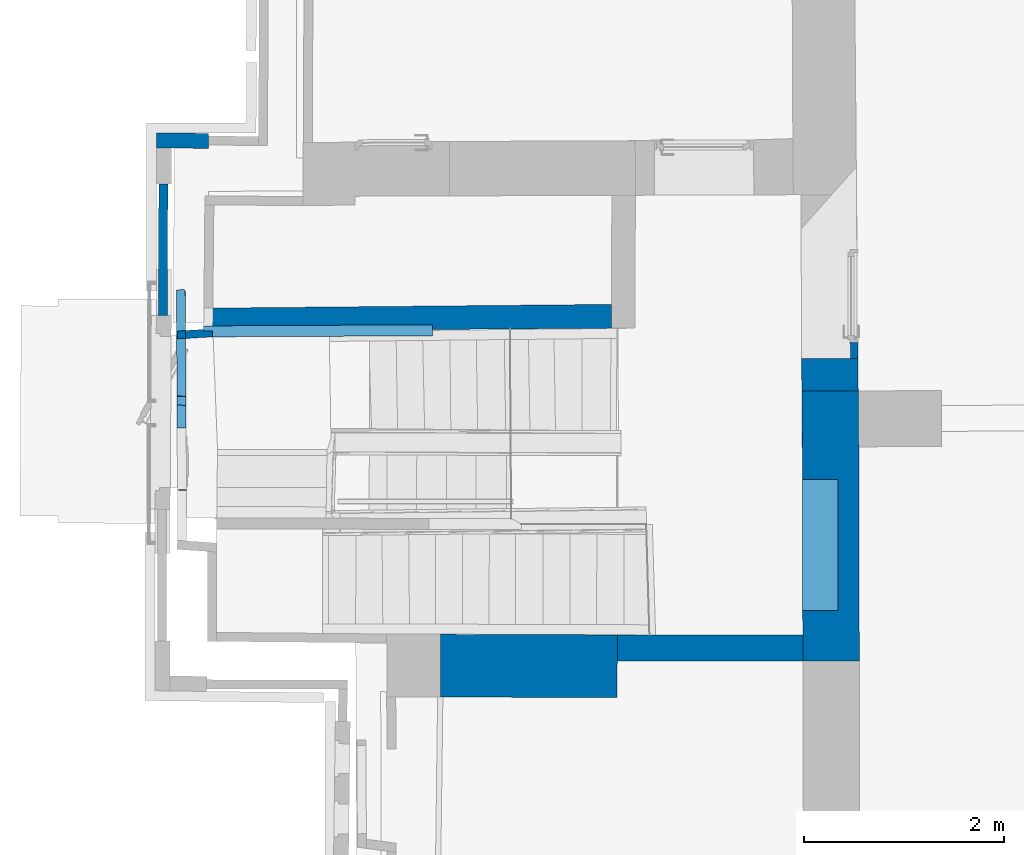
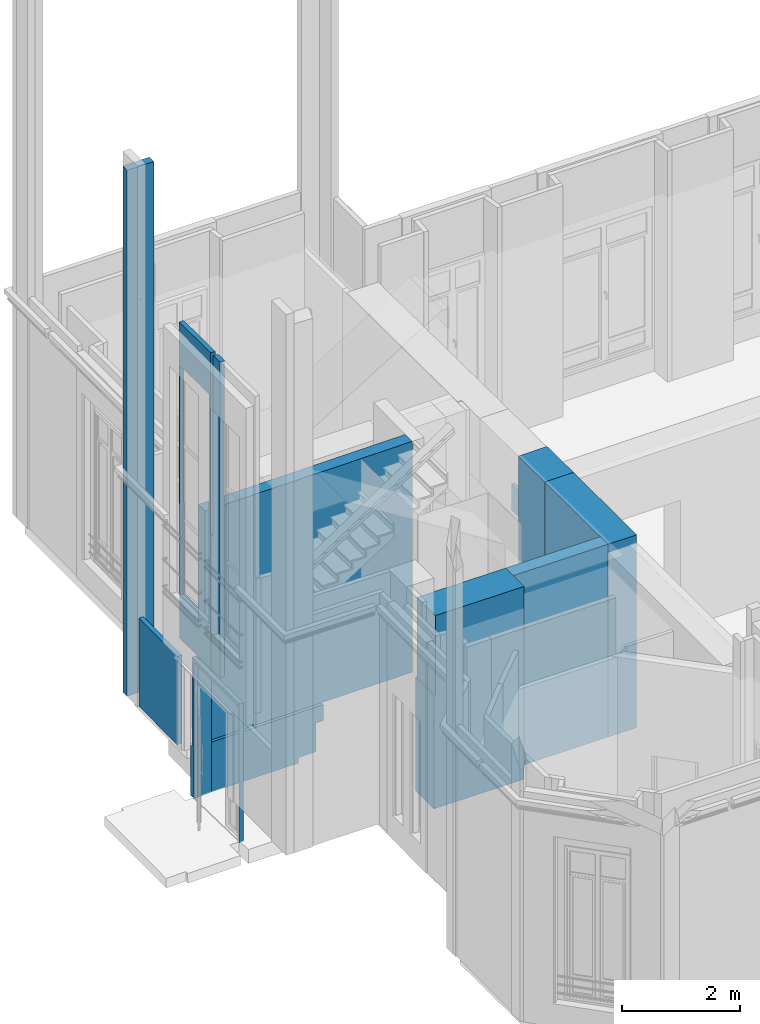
# One storey, part 10 of 97: 13 walls, 4 openings.
"""IFC2X3 building model written with IfcOpenShell, lengths in centimetres."""

from ifc_helpers import new_model, entity, si_unit, converted_unit, direction, frame, origin, origin_with_axes, origin_2d_with_axis, place, context, subcontext, project, spatial, polyline, rectangle, outline, extrude, clip, bounded_halfspace, faceted_brep, shape, material, layer, layer_set, layer_usage, type_object, element, save


model = new_model("IFC2X3")

# Units and contexts
model_context = context("Model", 3, precision=0.0001, world=origin(), true_north=direction((0.225632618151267, 0.974212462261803, 0.0)))
body_context = subcontext(model_context, "Body", "Model", "MODEL_VIEW")
footprint_context = subcontext(model_context, "FootPrint", "Model", "MODEL_VIEW")
profile_context = subcontext(model_context, "Profile", "Model", "MODEL_VIEW")
ifc_project = project(units=[si_unit("LENGTHUNIT", "METRE", prefix="CENTI"), si_unit("AREAUNIT", "SQUARE_METRE", prefix="CENTI"), si_unit("VOLUMEUNIT", "CUBIC_METRE", prefix="CENTI"), converted_unit("PLANEANGLEUNIT", "DEGREE", entity("IfcRatioMeasure", 0.0174532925), si_unit("PLANEANGLEUNIT", "RADIAN"), dimensions=[0, 0, 0, 0, 0, 0, 0])], contexts=[model_context])

# Site, building, storey
site_placement = place(None, origin_with_axes())
site = spatial("IfcSite", under=ifc_project, at=site_placement, Name="Default Site", CompositionType="ELEMENT")
building_placement = place(site_placement, origin_with_axes())
building = spatial("IfcBuilding", under=site, at=building_placement, Name="Default Building", CompositionType="ELEMENT")
storey_placement = place(building_placement, origin_with_axes())
storey = spatial("IfcBuildingStorey", under=building, at=storey_placement, Name="Rez-de-chaussée", CompositionType="ELEMENT", Elevation=0.0)

# Wall, opening
ifc_material = material(Name="<aucun>")
ifc_layer_1 = layer(ifc_material, 9.0)
ifc_layer_set_1 = layer_set([ifc_layer_1], Name="default")
ifc_layer_usage_1 = layer_usage(ifc_layer_set_1, "AXIS2", "POSITIVE", -4.5)
wall_type_1 = type_object("IfcWallType", Name="default 90", PredefinedType="NOTDEFINED", material=ifc_layer_set_1)
wall_1_placement = place(storey_placement, frame((-1335.40995484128, -49.2007279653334, 200.0), z_axis=(0.0, 0.0, 1.0), x_axis=(-0.00503871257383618, 0.999987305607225, 0.0)))
wall_1 = element("IfcWallStandardCase", 1, at=wall_1_placement, inside=storey, type_object=wall_type_1, material=ifc_layer_usage_1, Name="Enveloppe 954645", context=body_context, shape_type="Clipping", body=[
    clip(clip(clip(extrude(outline(polyline([(106.525951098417, 4.50000000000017), (2.22044604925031e-14, 4.49999999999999), (1.66533453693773e-14, -4.50000000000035), (105.301813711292, -4.49999999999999), (105.301813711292, -3.86412905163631), (107.270035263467, -3.68520594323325), (106.525951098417, 4.50000000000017)])), origin_with_axes(), (0.0, 0.0, 1.0), 653.910374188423), bounded_halfspace(frame((107.270035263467, -3.68520594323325, 277.808208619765), z_axis=(0.0, 0.0, 1.0), x_axis=(-0.995893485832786, -0.090532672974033, 0.0)), True, frame((107.270035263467, -3.68520594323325, 277.808208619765), z_axis=(0.0, 0.0, 1.0), x_axis=(1.0, 0.0, 0.0)), polyline([(-1.96822155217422, -0.178923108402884), (-1.96822155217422, 8.18520594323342), (-0.744084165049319, 8.18520594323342), (4.44089209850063e-14, 0.0), (-1.96822155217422, -0.178923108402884)]))), bounded_halfspace(frame((0.0159313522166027, -4.50000000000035, 277.808208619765), z_axis=(0.0, 0.0, -1.0), x_axis=(0.123055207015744, 0.992399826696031, 0.0)), True, frame((0.0159313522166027, -4.50000000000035, 277.808208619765), z_axis=(0.0, 0.0, 1.0), x_axis=(1.0, 0.0, 0.0)), polyline([(-0.0159313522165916, 0.0), (0.0, 0.0), (1.1159784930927, 8.99999999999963), (-0.0159313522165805, 9.00000000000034), (-0.0159313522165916, 0.0)]))), bounded_halfspace(frame((98.3069938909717, -4.49999999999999, 277.808208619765), z_axis=(0.0, 0.0, -1.0), x_axis=(1.0, 1.06876313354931e-14, 0.0)), True, frame((98.3069938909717, -4.49999999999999, 277.808208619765), z_axis=(0.0, 0.0, 1.0), x_axis=(1.0, 0.0, 0.0)), polyline([(3.33066907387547e-14, 0.0), (6.99481982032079, 0.0), (6.99481982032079, 0.635870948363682), (3.33066907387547e-14, 0.0)]))),
])
opening_1_placement = place(wall_1_placement, frame((6.60511947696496, 0.0, 90.0000000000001), z_axis=(0.0, 0.0, 1.0), x_axis=(-1.0, -3.80771802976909e-16, 0.0)))
cartesian_point_1 = entity("IfcCartesianPoint", [-2.77555756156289e-14, 0.0, 475.0])
cartesian_point_2 = entity("IfcCartesianPoint", [-97.6543004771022, -4.50000000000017])
element("IfcOpeningElement", 2, at=opening_1_placement, cuts=wall_1, Name="4294966509_11", ObjectType="Opening", shapes=[
    shape(body_context, "Body", "SweptSolid", [extrude(outline(polyline([(3.33066907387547e-14, 475.0), (0.0, 4.44089209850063e-14), (97.6543004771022, 4.44089209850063e-14), (97.6543004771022, 475.0), (3.33066907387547e-14, 475.0)])), frame((0.0, -14.5000000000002, 0.0), z_axis=(0.0, 1.0, 0.0), x_axis=(-1.0, 0.0, 0.0)), (0.0, 0.0, 1.0), 29.0000000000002)]),
    shape(profile_context, "Profile", "GeometricCurveSet", [entity("IfcGeometricCurveSet", [entity("IfcPolyline", [cartesian_point_1, entity("IfcCartesianPoint", [0.0, 0.0, 4.44089209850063e-14]), entity("IfcCartesianPoint", [-97.6543004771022, 0.0, 4.44089209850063e-14]), entity("IfcCartesianPoint", [-97.6543004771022, 0.0, 475.0]), cartesian_point_1])])]),
    shape(footprint_context, "FootPrint", "GeometricCurveSet", [entity("IfcGeometricCurveSet", [entity("IfcPolyline", [cartesian_point_2, entity("IfcCartesianPoint", [1.11022302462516e-14, -4.50000000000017]), entity("IfcCartesianPoint", [5.55111512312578e-15, 4.49999999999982]), entity("IfcCartesianPoint", [-97.6543004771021, 4.49999999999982]), cartesian_point_2])])]),
])

# Walls
ifc_layer_usage_2 = layer_usage(ifc_layer_set_1, "AXIS2", "POSITIVE", -4.5)
wall_2_placement = place(storey_placement, frame((-1335.25305342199, -80.3395209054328, 200.0), z_axis=(0.0, 0.0, 1.0), x_axis=(-0.00503871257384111, 0.999987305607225, 0.0)))
element("IfcWallStandardCase", 3, at=wall_2_placement, inside=storey, type_object=wall_type_1, material=ifc_layer_usage_2, Name="Enveloppe 955886", context=body_context, shape_type="Clipping", body=[
    clip(extrude(rectangle(XDim=9.00000000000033, YDim=31.0918392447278, at=origin_2d_with_axis()), frame((15.5932686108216, -1.77635683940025e-13, 0.0), z_axis=(0.0, 0.0, 1.0), x_axis=(1.03476255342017e-15, -1.0, 0.0)), (0.0, 0.0, 1.0), 653.910374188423), bounded_halfspace(frame((31.1391882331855, 4.49999999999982, 277.808208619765), z_axis=(0.0, 0.0, -1.0), x_axis=(-1.0, 1.54884785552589e-14, 0.0)), True, frame((31.1391882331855, 4.49999999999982, 277.808208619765), z_axis=(0.0, 0.0, 1.0), x_axis=(1.0, 0.0, 0.0)), polyline([(-9.05299405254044, -9.00000000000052), (0.0, -9.00000000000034), (5.55111512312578e-15, 0.0), (-7.93701555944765, 1.77635683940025e-13), (-9.05299405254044, -9.00000000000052)]))),
])
ifc_layer_2 = layer(ifc_material, 15.0)
ifc_layer_set_2 = layer_set([ifc_layer_2], Name="default")
ifc_layer_usage_3 = layer_usage(ifc_layer_set_2, "AXIS2", "POSITIVE", -7.5)
wall_type_2 = type_object("IfcWallType", Name="default 150", PredefinedType="NOTDEFINED", material=ifc_layer_set_2)
wall_3_placement = place(storey_placement, frame((-1308.3788824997, 206.309044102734, 0.0128503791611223), z_axis=(0.0, 0.0, 1.0), x_axis=(-0.999968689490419, 0.00791328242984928, 0.0)))
element("IfcWallStandardCase", 4, at=wall_3_placement, inside=storey, type_object=wall_type_2, material=ifc_layer_usage_3, Name="Enveloppe 374257", context=body_context, shape_type="Clipping", body=[
    clip(clip(extrude(outline(polyline([(51.9289551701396, 7.49999999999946), (0.0, 7.5), (-3.5527136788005e-13, 3.28477951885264), (-0.136644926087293, 3.2827046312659), (-3.5527136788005e-13, -5.71625798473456), (-3.5527136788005e-13, -7.49999999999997), (51.9620940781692, -7.50000000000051), (51.9289551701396, 7.49999999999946)])), frame((0.0, 0.0, -2.71050543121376e-18), z_axis=(0.0, 0.0, 1.0), x_axis=(1.0, 0.0, 0.0)), (0.0, 0.0, 1.0), 1088.89752380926), bounded_halfspace(frame((-1.77635683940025e-13, -5.71625798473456, 477.795358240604), z_axis=(0.0, 0.0, 1.0), x_axis=(-0.0151827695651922, 0.999884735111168, 0.0)), True, frame((-1.77635683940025e-13, -5.71625798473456, 477.795358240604), z_axis=(0.0, 0.0, 1.0), x_axis=(1.0, 0.0, 0.0)), polyline([(-0.0130358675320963, 0.858497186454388), (0.0, 0.858476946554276), (0.0, 4.44089209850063e-14), (-0.0130358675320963, 0.858497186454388)]))), bounded_halfspace(frame((-1.77635683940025e-13, 3.28477951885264, 477.795358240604), z_axis=(0.0, 0.0, 1.0), x_axis=(-2.07021899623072e-14, -1.0, 0.0)), True, frame((-1.77635683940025e-13, 3.28477951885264, 477.795358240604), z_axis=(0.0, 0.0, 1.0), x_axis=(1.0, 0.0, 0.0)), polyline([(-0.136644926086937, -0.0020748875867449), (-1.77635683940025e-13, 0.0), (0.0, -8.14256055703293), (-0.0130358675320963, -8.14254031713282), (-0.136644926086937, -0.0020748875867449)]))),
])

# Wall, opening
ifc_layer_3 = layer(ifc_material, 7.0)
ifc_layer_set_3 = layer_set([ifc_layer_3], Name="default")
ifc_layer_usage_4 = layer_usage(ifc_layer_set_3, "AXIS2", "POSITIVE", -3.5)
wall_type_3 = type_object("IfcWallType", Name="default 70", PredefinedType="NOTDEFINED", material=ifc_layer_set_3)
wall_4_placement = place(storey_placement, frame((-663.224498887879, -11.1847934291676, 0.0128503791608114), z_axis=(0.0, 0.0, 1.0), x_axis=(-0.00871943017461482, 0.999961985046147, 0.0)))
wall_4 = element("IfcWallStandardCase", 5, at=wall_4_placement, inside=storey, type_object=wall_type_3, material=ifc_layer_usage_4, Name="Enveloppe 25072", context=body_context, shape_type="SweptSolid", body=[
    extrude(outline(polyline([(107.370234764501, 3.74328691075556), (0.372112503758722, 4.15624658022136), (0.37211250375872, -3.50000000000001), (107.370234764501, -3.49999999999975), (107.370234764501, 3.74328691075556)])), frame((0.0, 0.0, -2.71050543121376e-18), z_axis=(0.0, 0.0, 1.0), x_axis=(1.0, 0.0, 0.0)), (0.0, 0.0, 1.0), 260.0),
])
opening_2_placement = place(wall_4_placement, frame((16.1867555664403, 0.0, -8.88161072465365e-14), z_axis=(0.0, 0.0, 1.0), x_axis=(0.999992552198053, -0.00385947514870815, 0.0)))
cartesian_point_3 = entity("IfcCartesianPoint", [1.38777878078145e-14, 0.0, 206.0])
cartesian_point_4 = entity("IfcCartesianPoint", [92.9848872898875, 4.09517940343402])
element("IfcOpeningElement", 6, at=opening_2_placement, cuts=wall_4, Name="4294966352_11", ObjectType="Opening", shapes=[
    shape(body_context, "Body", "SweptSolid", [extrude(outline(polyline([(-0.0159259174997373, 206.0), (-0.0159259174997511, 0.0), (92.9840740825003, 0.0), (92.9840740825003, 206.0), (-0.0159259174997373, 206.0)])), frame((0.0, 13.5, 0.0), z_axis=(0.0, -1.0, 0.0), x_axis=(1.0, 0.0, 0.0)), (0.0, 0.0, 1.0), 27.6576827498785)]),
    shape(profile_context, "Profile", "GeometricCurveSet", [entity("IfcGeometricCurveSet", [entity("IfcPolyline", [cartesian_point_3, entity("IfcCartesianPoint", [0.0, 0.0, 0.0]), entity("IfcCartesianPoint", [92.999307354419, 0.358931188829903, 0.0]), entity("IfcCartesianPoint", [92.999307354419, 0.358931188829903, 206.0]), cartesian_point_3])])]),
    shape(footprint_context, "FootPrint", "GeometricCurveSet", [entity("IfcGeometricCurveSet", [entity("IfcPolyline", [cartesian_point_4, entity("IfcCartesianPoint", [-0.0158053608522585, 4.09517940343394]), entity("IfcCartesianPoint", [0.0135081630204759, -3.49997393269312]), entity("IfcCartesianPoint", [93.0128155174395, -3.14104274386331]), cartesian_point_4])])]),
])

# Wall
ifc_layer_4 = layer(ifc_material, 8.0)
ifc_layer_set_4 = layer_set([ifc_layer_4], Name="default")
ifc_layer_usage_5 = layer_usage(ifc_layer_set_4, "AXIS2", "POSITIVE", -4.0)
wall_type_4 = type_object("IfcWallType", Name="default 80", PredefinedType="NOTDEFINED", material=ifc_layer_set_4)
wall_5_placement = place(storey_placement, frame((-1331.44708865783, 12.8938074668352, -103.702535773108), z_axis=(0.0, 0.0, 1.0), x_axis=(0.998131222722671, 0.0611069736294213, 0.0)))
element("IfcWallStandardCase", 7, at=wall_5_placement, inside=storey, type_object=wall_type_4, material=ifc_layer_usage_5, Name="Enveloppe 1703137", context=body_context, shape_type="Clipping", body=[
    clip(clip(extrude(outline(polyline([(-5.32907051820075e-13, 3.99999999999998), (-1.77635683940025e-13, -4.0), (27.1177151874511, -4.00071706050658), (27.1177590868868, 1.72730762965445), (17.9410846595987, 2.22175111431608), (17.9410846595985, 4.00000000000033), (-5.32907051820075e-13, 3.99999999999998)])), origin_with_axes(), (0.0, 0.0, 1.0), 287.702535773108), bounded_halfspace(frame((18.3785869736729, 2.19817828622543, 103.715386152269), z_axis=(0.0, 0.0, 1.0), x_axis=(0.998551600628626, -0.0538024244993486, 0.0)), True, frame((18.3785869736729, 2.19817828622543, 103.715386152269), z_axis=(0.0, 0.0, 1.0), x_axis=(1.0, 0.0, 0.0)), polyline([(-0.437502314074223, -5.67935101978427), (-0.437502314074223, 0.0235728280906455), (8.73917211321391, -0.470870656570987), (8.73917211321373, -6.19817828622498), (-0.437502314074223, -5.67935101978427)]))), bounded_halfspace(frame((26.9640905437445, -3.99999999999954, 103.715386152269), z_axis=(0.0, 0.0, 1.0), x_axis=(-1.0, -1.50851553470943e-14, 0.0)), True, frame((26.9640905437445, -3.99999999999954, 103.715386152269), z_axis=(0.0, 0.0, 1.0), x_axis=(1.0, 0.0, 0.0)), polyline([(-9.02300588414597, -1.55431223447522e-13), (0.15366854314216, -1.11022302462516e-14), (-9.02300588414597, -1.55431223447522e-13)]))),
])

# Wall, opening
ifc_layer_usage_6 = layer_usage(ifc_layer_set_4, "AXIS2", "POSITIVE", -4.0)
wall_6_placement = place(storey_placement, frame((-1334.43892301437, -142.6808567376, -103.702535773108), z_axis=(0.0, 0.0, 1.0), x_axis=(-0.00503871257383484, 0.999987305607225, 0.0)))
wall_6 = element("IfcWallStandardCase", 8, at=wall_6_placement, inside=storey, type_object=wall_type_4, material=ifc_layer_usage_6, Name="Enveloppe 1703884", context=body_context, shape_type="Clipping", body=[
    clip(extrude(outline(polyline([(163.050716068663, 3.99999999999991), (0.0, 4.00000000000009), (2.22044604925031e-14, -4.00000000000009), (151.563908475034, -4.00000000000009), (159.551320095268, -3.55138478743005), (159.128195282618, 3.98218061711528), (163.050550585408, 3.96715804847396), (163.050716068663, 3.99999999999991)])), frame((0.0, 0.0, -4.44089209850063e-14), z_axis=(0.0, 0.0, 1.0), x_axis=(1.0, 0.0, 0.0)), (0.0, 0.0, 1.0), 287.702535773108), bounded_halfspace(frame((163.050590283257, 3.96715784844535, 103.715386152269), z_axis=(0.0, 0.0, -1.0), x_axis=(0.00382997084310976, 0.999992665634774, 0.0)), True, frame((163.050590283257, 3.96715784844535, 103.715386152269), z_axis=(0.0, 0.0, 1.0), x_axis=(1.0, 0.0, 0.0)), polyline([(-3.92239500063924, 0.0150227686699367), (0.0, -1.77635683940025e-13), (0.00012578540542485, 0.0328421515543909), (-3.92339583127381, 0.0328421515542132), (-3.92239500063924, 0.0150227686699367)]))),
])
opening_3_placement = place(wall_6_placement, frame((0.63773087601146, 0.0, -2.8421709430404e-14), z_axis=(0.0, 0.0, 1.0), x_axis=(-1.0, 1.79283671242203e-15, 0.0)))
cartesian_point_5 = entity("IfcCartesianPoint", [0.0, 1.77635683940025e-13, 281.606319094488])
cartesian_point_6 = entity("IfcCartesianPoint", [-150.926177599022, -4.00000000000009])
element("IfcOpeningElement", 9, at=opening_3_placement, cuts=wall_6, Name="4294966382_11", ObjectType="Opening", shapes=[
    shape(body_context, "Body", "SweptSolid", [extrude(outline(polyline([(0.0, 281.606319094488), (0.0, 0.0), (150.926177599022, 0.0), (150.926177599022, 281.606319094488), (0.0, 281.606319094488)])), frame((0.0, -14.0, 0.0), z_axis=(0.0, 1.0, 0.0), x_axis=(-1.0, 0.0, 0.0)), (0.0, 0.0, 1.0), 28.0)]),
    shape(profile_context, "Profile", "GeometricCurveSet", [entity("IfcGeometricCurveSet", [entity("IfcPolyline", [cartesian_point_5, entity("IfcCartesianPoint", [0.0, 1.77635683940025e-13, 0.0]), entity("IfcCartesianPoint", [-150.926177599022, 0.0, 0.0]), entity("IfcCartesianPoint", [-150.926177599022, 0.0, 281.606319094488]), cartesian_point_5])])]),
    shape(footprint_context, "FootPrint", "GeometricCurveSet", [entity("IfcGeometricCurveSet", [entity("IfcPolyline", [cartesian_point_6, entity("IfcCartesianPoint", [0.0, -3.99999999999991]), entity("IfcCartesianPoint", [0.0, 4.00000000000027]), entity("IfcCartesianPoint", [-150.926177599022, 4.00000000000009]), cartesian_point_6])])]),
])

# Walls
ifc_layer_usage_7 = layer_usage(ifc_layer_set_1, "AXIS2", "POSITIVE", -4.5)
wall_type_5 = type_object("IfcWallType", Name="default 90", PredefinedType="NOTDEFINED", material=ifc_layer_set_1)
wall_7_placement = place(storey_placement, frame((-1354.09637689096, 31.9998962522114, 0.0128503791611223), z_axis=(0.0, 0.0, 1.0), x_axis=(0.0046970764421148, 0.999988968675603, 0.0)))
element("IfcWallStandardCase", 10, at=wall_7_placement, inside=storey, type_object=wall_type_5, material=ifc_layer_usage_7, Name="Enveloppe 372191", context=body_context, shape_type="SweptSolid", body=[
    extrude(outline(polyline([(0.0121917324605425, 4.49999999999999), (0.000434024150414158, -4.49999999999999), (131.336575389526, -4.49999999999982), (131.345638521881, 4.49999999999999), (0.0121917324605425, 4.49999999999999)])), origin_with_axes(), (0.0, 0.0, 1.0), 182.782507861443),
])
ifc_layer_5 = layer(ifc_material, 11.0)
ifc_layer_set_5 = layer_set([ifc_layer_5], Name="default")
ifc_layer_usage_8 = layer_usage(ifc_layer_set_5, "AXIS2", "POSITIVE", -5.5)
wall_type_6 = type_object("IfcWallType", Name="default 110", PredefinedType="NOTDEFINED", material=ifc_layer_set_5)
wall_8_placement = place(storey_placement, frame((-1304.16125032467, 16.0583068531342, -103.702535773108), z_axis=(0.0, 0.0, 1.0), x_axis=(0.999989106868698, 0.00466756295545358, 0.0)))
element("IfcWallStandardCase", 11, at=wall_8_placement, inside=storey, type_object=wall_type_6, material=ifc_layer_usage_8, Name="Enveloppe 78848", context=body_context, shape_type="Clipping", body=[
    clip(clip(clip(clip(extrude(outline(polyline([(-9.61362260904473, 1.96924453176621), (-9.19132935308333, -5.49999999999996), (219.620242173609, -5.50000000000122), (219.620242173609, 5.49999999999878), (-9.000880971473, 5.50000000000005), (-9.04983792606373, 2.00111957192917), (-9.61362260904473, 1.96924453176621)])), origin_with_axes(), (0.0, 0.0, 1.0), 103.715386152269), bounded_halfspace(frame((204.973056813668, 5.49999999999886, 11.3972598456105), z_axis=(0.0, 0.0, 1.0), x_axis=(1.11759559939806e-14, -1.0, 0.0)), True, frame((204.973056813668, 5.49999999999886, 11.3972598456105), z_axis=(0.0, 0.0, 1.0), x_axis=(1.0, 0.0, 0.0)), polyline([(-34.6197316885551, -4.82968846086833), (-34.6197316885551, 1.94289029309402e-13), (-1.77635683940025e-13, 0.0), (1.77635683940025e-13, -4.73797808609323), (-34.6197316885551, -4.82968846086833)]))), bounded_halfspace(frame((170.353325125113, -5.50000000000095, 11.3972598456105), z_axis=(0.0, 0.0, 1.0), x_axis=(5.18769055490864e-14, 1.0, 0.0)), True, frame((170.353325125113, -5.50000000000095, 11.3972598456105), z_axis=(0.0, 0.0, 1.0), x_axis=(1.0, 0.0, 0.0)), polyline([(0.0, -2.77555756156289e-15), (3.5527136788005e-13, 6.17031153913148), (34.6197316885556, 6.26202191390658), (34.6197316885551, -1.94289029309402e-13), (0.0, -2.77555756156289e-15)]))), bounded_halfspace(frame((204.973056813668, 5.49999999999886, 70.7125669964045), z_axis=(0.0, 0.0, 1.0), x_axis=(1.0, -1.12748352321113e-14, 0.0)), True, frame((204.973056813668, 5.49999999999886, 70.7125669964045), z_axis=(0.0, 0.0, 1.0), x_axis=(1.0, 0.0, 0.0)), polyline([(1.77635683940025e-13, -4.73797808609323), (-1.77635683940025e-13, 0.0), (14.6471853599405, -8.32667268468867e-14), (14.6471853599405, -4.69917654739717), (1.77635683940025e-13, -4.73797808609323)]))), bounded_halfspace(frame((205.02442139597, -5.50000000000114, 70.7125669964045), z_axis=(0.0, 0.0, 1.0), x_axis=(-1.0, 3.71230823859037e-15, 0.0)), True, frame((205.02442139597, -5.50000000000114, 70.7125669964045), z_axis=(0.0, 0.0, 1.0), x_axis=(1.0, 0.0, 0.0)), polyline([(-0.0513645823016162, -2.77555756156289e-15), (-0.0513645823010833, 6.26202191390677), (14.5958207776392, 6.30082345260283), (14.5958207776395, -8.32667268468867e-14), (-0.0513645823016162, -2.77555756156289e-15)]))),
])
ifc_layer_6 = layer(ifc_material, 55.6)
ifc_layer_set_6 = layer_set([ifc_layer_6], Name="default")
ifc_layer_usage_9 = layer_usage(ifc_layer_set_6, "AXIS2", "POSITIVE", -27.8)
wall_type_7 = type_object("IfcWallType", Name="default 556", PredefinedType="NOTDEFINED", material=ifc_layer_set_6)
wall_9_placement = place(storey_placement, frame((-686.755035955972, -99.5343103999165, 0.0128503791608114), z_axis=(0.0, 0.0, 1.0), x_axis=(-0.00871943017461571, 0.999961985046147, 0.0)))
element("IfcWallStandardCase", 12, at=wall_9_placement, inside=storey, type_object=wall_type_7, material=ifc_layer_usage_9, Name="Enveloppe 25234", context=body_context, shape_type="Clipping", body=[
    clip(clip(extrude(outline(polyline([(88.7275678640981, 28.4576826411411), (-1.11022302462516e-14, 28.8430625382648), (-0.341254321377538, -27.7987376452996), (88.5130979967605, -27.8), (88.7275678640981, 28.4576826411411)])), frame((0.0, 0.0, -2.71050543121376e-18), z_axis=(0.0, 0.0, 1.0), x_axis=(1.0, 0.0, 0.0)), (0.0, 0.0, 1.0), 399.097180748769), bounded_halfspace(frame((88.5130979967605, -27.1444683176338, 264.987149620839), z_axis=(0.0, 0.0, 1.0), x_axis=(3.81639164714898e-17, 1.0, 0.0)), True, frame((88.5130979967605, -27.1444683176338, 264.987149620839), z_axis=(0.0, 0.0, 1.0), x_axis=(1.0, 0.0, 0.0)), polyline([(2.22044604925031e-14, 0.0), (3.33066907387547e-14, 55.6021510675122), (0.214457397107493, 55.6021510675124), (2.22044604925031e-14, 0.0)]))), bounded_halfspace(frame((-0.341254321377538, -27.7987376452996, 382.495358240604), z_axis=(0.0, 0.0, 1.0), x_axis=(0.00605060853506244, 0.999981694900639, 0.0)), True, frame((-0.341254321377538, -27.7987376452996, 382.495358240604), z_axis=(0.0, 0.0, 1.0), x_axis=(1.0, 0.0, 0.0)), polyline([(0.0, -8.88178419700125e-14), (0.341254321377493, 56.3989675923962), (56.372021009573, 56.0599411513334), (56.372021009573, -0.00126235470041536), (0.0, -8.88178419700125e-14)]))),
])
ifc_layer_7 = layer(ifc_material, 62.7069274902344)
ifc_layer_set_7 = layer_set([ifc_layer_7], Name="default")
ifc_layer_usage_10 = layer_usage(ifc_layer_set_7, "AXIS2", "POSITIVE", -31.353)
wall_type_8 = type_object("IfcWallType", Name="default 627.069274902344", PredefinedType="NOTDEFINED", material=ifc_layer_set_7)
wall_10_placement = place(storey_placement, frame((-900.168247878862, -318.439168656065, 0.0128503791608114), z_axis=(0.0, 0.0, 1.0), x_axis=(-0.999992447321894, 0.00388655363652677, 0.0)))
element("IfcWallStandardCase", 13, at=wall_10_placement, inside=storey, type_object=wall_type_8, material=ifc_layer_usage_10, Name="Enveloppe 44911", context=body_context, shape_type="Clipping", body=[
    clip(extrude(outline(polyline([(176.399369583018, 31.3534635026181), (-1.77635683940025e-13, 31.3534635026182), (8.81156481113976e-08, -5.46083729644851), (-0.117973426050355, -5.46129581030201), (-0.0123654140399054, -31.3534637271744), (176.399369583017, -31.3534635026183), (176.399369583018, 31.3534635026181)])), origin_with_axes(), (0.0, 0.0, 1.0), 399.097180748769), bounded_halfspace(frame((176.399369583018, 31.3534635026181, 234.987149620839), z_axis=(0.0, 0.0, -1.0), x_axis=(-1.0, -9.72312508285e-16, 0.0)), True, frame((176.399369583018, 31.3534635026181, 234.987149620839), z_axis=(0.0, 0.0, 1.0), x_axis=(1.0, 0.0, 0.0)), polyline([(-2.91327363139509, -62.7069270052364), (-1.77635683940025e-13, -62.7069270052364), (0.0, 4.44089209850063e-14), (-2.91327363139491, 4.44089209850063e-14), (-2.91327363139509, -62.7069270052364)]))),
])

# Wall, opening
ifc_layer_8 = layer(ifc_material, 56.4)
ifc_layer_set_8 = layer_set([ifc_layer_8], Name="default")
ifc_layer_usage_11 = layer_usage(ifc_layer_set_8, "AXIS2", "POSITIVE", -28.2)
wall_type_9 = type_object("IfcWallType", Name="default 564", PredefinedType="NOTDEFINED", material=ifc_layer_set_8)
wall_11_placement = place(storey_placement, frame((-686.619765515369, -299.983173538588, 0.0128503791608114), z_axis=(0.0, 0.0, 1.0), x_axis=(-0.0026688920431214, 0.999996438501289, 0.0)))
wall_11 = element("IfcWallStandardCase", 14, at=wall_11_placement, inside=storey, type_object=wall_type_9, material=ifc_layer_usage_11, Name="Enveloppe 2878", context=body_context, shape_type="Clipping", body=[
    clip(clip(clip(extrude(outline(polyline([(256.307253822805, 28.2000000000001), (-13.0240698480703, 28.2000000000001), (-13.0240698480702, -28.2), (256.454590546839, -28.1999999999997), (256.453698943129, -27.8613436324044), (256.646458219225, -27.8601773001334), (256.307253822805, 28.2000000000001)])), origin_with_axes(), (0.0, 0.0, 1.0), 399.097180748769), bounded_halfspace(frame((-13.0240698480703, -28.1999999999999, 382.495358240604), z_axis=(0.0, 0.0, -1.0), x_axis=(0.00247671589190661, 0.999996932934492, 0.0)), True, frame((-13.0240698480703, -28.1999999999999, 382.495358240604), z_axis=(0.0, 0.0, 1.0), x_axis=(1.0, 0.0, 0.0)), polyline([(-4.44089209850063e-14, 0.0), (0.139687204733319, 56.4000000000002), (0.0, 56.4), (-4.44089209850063e-14, 0.0)]))), bounded_halfspace(frame((256.646458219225, -27.8601773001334, 382.495358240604), z_axis=(0.0, 0.0, -1.0), x_axis=(-0.0060506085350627, 0.999981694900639, 0.0)), True, frame((256.646458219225, -27.8601773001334, 382.495358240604), z_axis=(0.0, 0.0, 1.0), x_axis=(1.0, 0.0, 0.0)), polyline([(-56.3709967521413, -0.33982269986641), (4.44089209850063e-14, 0.0), (-0.339204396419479, 56.0601773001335), (-56.3709967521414, 56.0601773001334), (-56.3709967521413, -0.33982269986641)]))), bounded_halfspace(frame((256.453698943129, -27.8613436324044, 382.495358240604), z_axis=(0.0, 0.0, -1.0), x_axis=(-0.99998169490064, -0.00605060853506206, 0.0)), True, frame((256.453698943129, -27.8613436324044, 382.495358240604), z_axis=(0.0, 0.0, 1.0), x_axis=(1.0, 0.0, 0.0)), polyline([(-55.9696047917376, -0.33865636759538), (0.000891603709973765, -0.338656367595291), (4.44089209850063e-14, 0.0), (-55.9696047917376, -0.33865636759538)]))),
])
opening_4_placement = place(wall_11_placement, frame((37.4233164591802, 0.0, 117.24580413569), z_axis=(0.0, 0.0, 1.0), x_axis=(-1.0, -5.08273978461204e-16, 0.0)))
cartesian_point_7 = entity("IfcCartesianPoint", [0.0, 0.0, 151.0])
cartesian_point_8 = entity("IfcCartesianPoint", [-130.801880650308, -28.2])
element("IfcOpeningElement", 15, at=opening_4_placement, cuts=wall_11, Name="Baie 24222", ObjectType="Recess", shapes=[
    shape(body_context, "Body", "Brep", [faceted_brep([(5.87409703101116e-06, -48.1999800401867, 150.999988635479), (-130.801875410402, -48.1999800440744, 150.999988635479), (-130.801875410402, -48.1999800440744, 1.51008183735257e-06), (5.87409703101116e-06, -48.1999800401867, 1.51008183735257e-06), (-4.7183652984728e-06, 7.20001664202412, 150.999988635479), (-4.7167186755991e-06, -48.1999800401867, 150.999988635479), (-4.7167186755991e-06, -48.1999800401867, 1.51008183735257e-06), (-4.7183652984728e-06, 7.20001664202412, 1.51008183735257e-06), (-130.801875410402, -48.1999764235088, 1.51008183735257e-06), (-130.801886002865, 7.20002025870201, 1.51008183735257e-06), (-130.801886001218, -48.1999764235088, 1.51008183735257e-06), (-130.801886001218, -48.1999764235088, 150.999988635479), (-130.801886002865, 7.20002025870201, 150.999988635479), (-130.801875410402, -48.1999764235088, 150.999988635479), (-130.801886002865, 7.20001663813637, 1.51008183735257e-06), (-130.801886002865, 7.20001663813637, 150.999988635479)], [[[0, 1, 2, 3]], [[4, 5, 6, 7]], [[7, 3, 8, 9]], [[9, 10, 11, 12]], [[12, 13, 0, 4]], [[4, 7, 14, 15]]])]),
    shape(profile_context, "Profile", "GeometricCurveSet", [entity("IfcGeometricCurveSet", [entity("IfcPolyline", [cartesian_point_7, entity("IfcCartesianPoint", [0.0, 0.0, 0.0]), entity("IfcCartesianPoint", [-130.801880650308, 0.0, 0.0]), entity("IfcCartesianPoint", [-130.801880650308, 0.0, 151.0]), cartesian_point_7])])]),
    shape(footprint_context, "FootPrint", "GeometricCurveSet", [entity("IfcGeometricCurveSet", [entity("IfcPolyline", [cartesian_point_8, entity("IfcCartesianPoint", [0.0, -28.2]), entity("IfcCartesianPoint", [0.0, 28.2]), entity("IfcCartesianPoint", [-130.801880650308, 28.2]), cartesian_point_8])])]),
])

# Walls
ifc_layer_9 = layer(ifc_material, 23.0)
ifc_layer_set_9 = layer_set([ifc_layer_9], Name="default")
ifc_layer_usage_12 = layer_usage(ifc_layer_set_9, "AXIS2", "POSITIVE", -11.5)
wall_type_10 = type_object("IfcWallType", Name="default 230", PredefinedType="NOTDEFINED", material=ifc_layer_set_9)
wall_12_placement = place(storey_placement, frame((-1304.15699250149, 27.7776831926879, 0.0128503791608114), z_axis=(0.0, 0.0, 1.0), x_axis=(0.999973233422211, 0.00731658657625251, 0.0)))
element("IfcWallStandardCase", 16, at=wall_12_placement, inside=storey, type_object=wall_type_10, material=ifc_layer_usage_12, Name="Enveloppe 2373", context=body_context, shape_type="Clipping", body=[
    clip(extrude(outline(polyline([(296.820811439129, 12.0811918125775), (0.219451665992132, 11.5004296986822), (-8.7817945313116, 11.5004296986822), (-9.13450860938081, -9.69394530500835), (-9.69837575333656, -9.72432672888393), (-9.60270165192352, -11.5), (296.820811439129, -11.5000000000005), (397.975630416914, -11.5000000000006), (398.252255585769, 12.2798002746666), (296.820811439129, 12.0811918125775)])), origin_with_axes(), (0.0, 0.0, 1.0), 477.795358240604), bounded_halfspace(frame((-9.69837575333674, -9.72432672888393, 183.987149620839), z_axis=(0.0, 0.0, -1.0), x_axis=(0.0538024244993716, -0.998551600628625, 0.0)), True, frame((-9.69837575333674, -9.72432672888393, 183.987149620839), z_axis=(0.0, 0.0, 1.0), x_axis=(1.0, 0.0, 0.0)), polyline([(0.0, 0.0), (0.0956741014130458, -1.77567327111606), (0.533811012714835, -1.77567327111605), (0.563867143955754, 0.0303814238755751), (0.0, 0.0)]))),
])
ifc_layer_10 = layer(ifc_material, 25.9083740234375)
ifc_layer_set_10 = layer_set([ifc_layer_10], Name="default")
ifc_layer_usage_13 = layer_usage(ifc_layer_set_10, "AXIS2", "POSITIVE", -12.954)
wall_type_11 = type_object("IfcWallType", Name="default 259.083740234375", PredefinedType="NOTDEFINED", material=ifc_layer_set_10)
wall_13_placement = place(storey_placement, frame((-900.043904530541, -300.024188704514, 0.0128503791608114), z_axis=(0.0, 0.0, 1.0), x_axis=(0.999999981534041, 0.000192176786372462, 0.0)))
element("IfcWallStandardCase", 17, at=wall_13_placement, inside=storey, type_object=wall_type_11, material=ifc_layer_usage_13, Name="Enveloppe 2939", context=body_context, shape_type="SweptSolid", body=[
    extrude(outline(polyline([(32.1835316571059, 12.9541865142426), (0.0123653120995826, 12.9541865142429), (0.0123653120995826, -12.954186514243), (32.1835316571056, -12.9541865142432), (185.256140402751, -12.954186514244), (185.191972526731, 12.954186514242), (32.1835316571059, 12.9541865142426)])), origin_with_axes(), (0.0, 0.0, 1.0), 399.097180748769),
])

save(model, "model.ifc")
